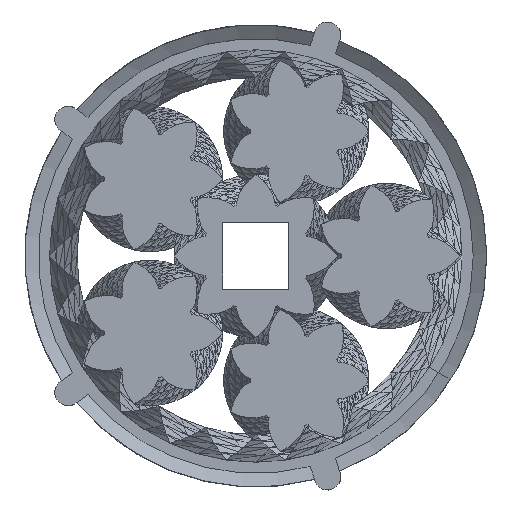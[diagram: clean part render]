
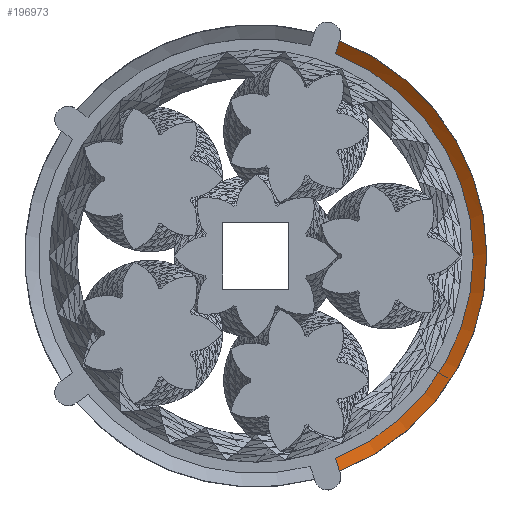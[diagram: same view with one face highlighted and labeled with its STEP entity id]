
A CAD part, top view. The second image highlights one B-rep face of the part: STEP entity #196973.
In plain terms, the highlighted conical face has half-angle 55 degrees and reference radius 33.816 mm.
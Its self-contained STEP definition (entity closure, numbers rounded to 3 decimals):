
#25=CONICAL_SURFACE('',#214165,33.816,0.96);
#41=B_SPLINE_CURVE_WITH_KNOTS('',3,(#298468,#298469,#298470,#298471),
 .UNSPECIFIED.,.F.,.F.,(4,4),(-10.499,-9.981),
 .UNSPECIFIED.);
#83=CIRCLE('',#214166,32.792);
#84=CIRCLE('',#214167,34.84);
#116=(
BOUNDED_CURVE()
B_SPLINE_CURVE(2,(#297430,#297431,#297432),.UNSPECIFIED.,.F.,.F.)
B_SPLINE_CURVE_WITH_KNOTS((3,3),(0.,0.251),
 .UNSPECIFIED.)
CURVE()
GEOMETRIC_REPRESENTATION_ITEM()
RATIONAL_B_SPLINE_CURVE((1.,1.,1.))
REPRESENTATION_ITEM('')
);
#127=(
BOUNDED_CURVE()
B_SPLINE_CURVE(2,(#298432,#298433,#298434),.UNSPECIFIED.,.F.,.F.)
B_SPLINE_CURVE_WITH_KNOTS((3,3),(0.,0.25),.UNSPECIFIED.)
CURVE()
GEOMETRIC_REPRESENTATION_ITEM()
RATIONAL_B_SPLINE_CURVE((1.,1.,1.))
REPRESENTATION_ITEM('')
);
#2649=FACE_OUTER_BOUND('',#19791,.T.);
#19791=EDGE_LOOP('',(#132080,#132081,#132082,#132083,#132084));
#89014=VERTEX_POINT('',#297425);
#89015=VERTEX_POINT('',#297429);
#89466=VERTEX_POINT('',#298429);
#89467=VERTEX_POINT('',#298431);
#89470=VERTEX_POINT('',#298466);
#101048=EDGE_CURVE('',#89015,#89014,#116,.T.);
#101526=EDGE_CURVE('',#89467,#89466,#127,.T.);
#101534=EDGE_CURVE('',#89470,#89466,#41,.T.);
#101538=EDGE_CURVE('',#89467,#89014,#83,.T.);
#101539=EDGE_CURVE('',#89470,#89015,#84,.T.);
#132080=ORIENTED_EDGE('',*,*,#101048,.T.);
#132081=ORIENTED_EDGE('',*,*,#101538,.F.);
#132082=ORIENTED_EDGE('',*,*,#101526,.T.);
#132083=ORIENTED_EDGE('',*,*,#101534,.F.);
#132084=ORIENTED_EDGE('',*,*,#101539,.T.);
#196973=ADVANCED_FACE('',(#2649),#25,.T.);
#214165=AXIS2_PLACEMENT_3D('',#298494,#238102,#238103);
#214166=AXIS2_PLACEMENT_3D('',#298495,#238104,#238105);
#214167=AXIS2_PLACEMENT_3D('',#298496,#238106,#238107);
#238102=DIRECTION('center_axis',(0.,0.,
1.));
#238103=DIRECTION('ref_axis',(1.,0.,0.));
#238104=DIRECTION('center_axis',(0.,0.,
-1.));
#238105=DIRECTION('ref_axis',(1.,0.,0.));
#238106=DIRECTION('center_axis',(0.,0.,
-1.));
#238107=DIRECTION('ref_axis',(1.,0.,0.));
#297425=CARTESIAN_POINT('',(12.014,-28.277,11.566));
#297429=CARTESIAN_POINT('',(12.648,-30.228,13.));
#297430=CARTESIAN_POINT('Ctrl Pts',(12.648,-30.228,
13.));
#297431=CARTESIAN_POINT('Ctrl Pts',(12.321,-29.223,12.261));
#297432=CARTESIAN_POINT('Ctrl Pts',(12.014,-28.277,
11.566));
#298429=CARTESIAN_POINT('',(12.648,34.697,13.));
#298431=CARTESIAN_POINT('',(12.014,32.746,11.566));
#298432=CARTESIAN_POINT('Ctrl Pts',(12.014,32.746,11.566));
#298433=CARTESIAN_POINT('Ctrl Pts',(12.321,33.692,12.261));
#298434=CARTESIAN_POINT('Ctrl Pts',(12.648,34.697,13.));
#298466=CARTESIAN_POINT('',(17.418,32.407,13.));
#298468=CARTESIAN_POINT('Ctrl Pts',(17.418,32.407,13.));
#298469=CARTESIAN_POINT('Ctrl Pts',(15.923,33.27,13.));
#298470=CARTESIAN_POINT('Ctrl Pts',(14.323,34.045,13.));
#298471=CARTESIAN_POINT('Ctrl Pts',(12.648,34.697,13.));
#298494=CARTESIAN_POINT('Origin',(-0.002,2.235,
12.283));
#298495=CARTESIAN_POINT('Origin',(-0.002,2.235,
11.566));
#298496=CARTESIAN_POINT('Origin',(-0.002,2.235,
13.));
